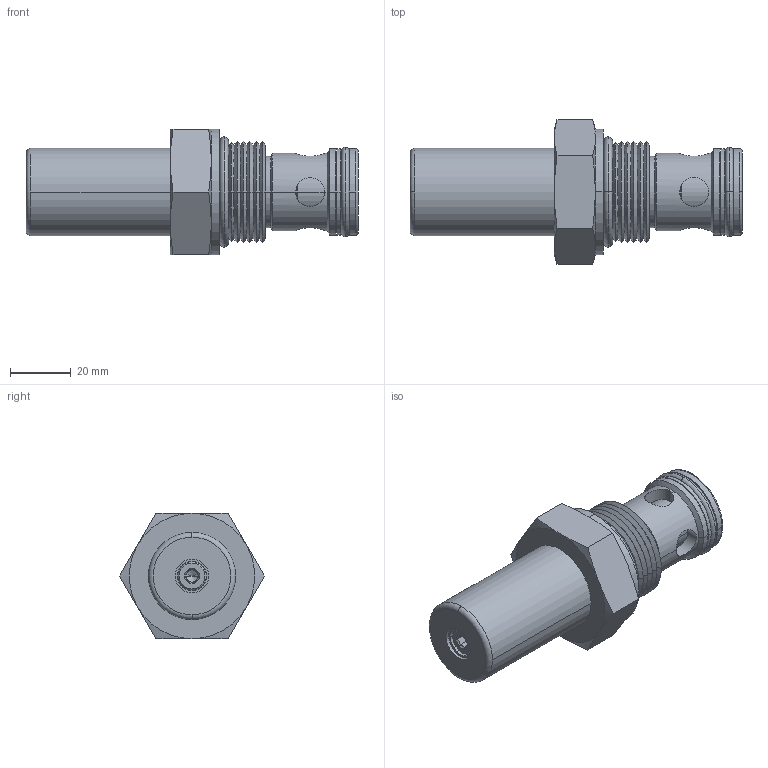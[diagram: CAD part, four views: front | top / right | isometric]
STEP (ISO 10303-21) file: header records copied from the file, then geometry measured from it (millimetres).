
FILE_DESCRIPTION((''),'2;1');
FILE_NAME('U:\Solid model CD\Solid model full\Mechanical\STEP\SJRVR0I-3D Full.stp','2008-07-29T09:59:09',('Dan'),(''),'Autodesk Inventor 9','Autodesk Inventor 9','');
FILE_SCHEMA(('AUTOMOTIVE_DESIGN { 1 0 10303 214 1 1 1 1 }'));
Length unit declared in the file: inch
Products named in the file (5): SJRVR0I-3D Full; SJRVR0I-3D Full1; SJRVR0I-3D Full2; SJRVR0I-3D Full3; SJRVR0I-3D Full4
Assembly tree (4 placements, depth 2):
  SJRVR0I-3D Full
    SJRVR0I-3D Full1
    SJRVR0I-3D Full2
    SJRVR0I-3D Full3
    SJRVR0I-3D Full4
Bounding box: 109.22 x 47.66 x 41.27 mm (x, y, z)
Volume: 78840.3 mm3; surface area: 19824.4 mm2
Topology: 4 solids, 5 shells, 164 faces, 363 edges, 214 vertices
Faces by surface type: cone 66, cylinder 50, plane 34, torus 12, bspline 2
Entity records: 4898 total; most frequent: CARTESIAN_POINT 1144, DIRECTION 826, ORIENTED_EDGE 722, EDGE_CURVE 361, AXIS2_PLACEMENT_3D 350, VERTEX_POINT 214, EDGE_LOOP 187, CIRCLE 179
